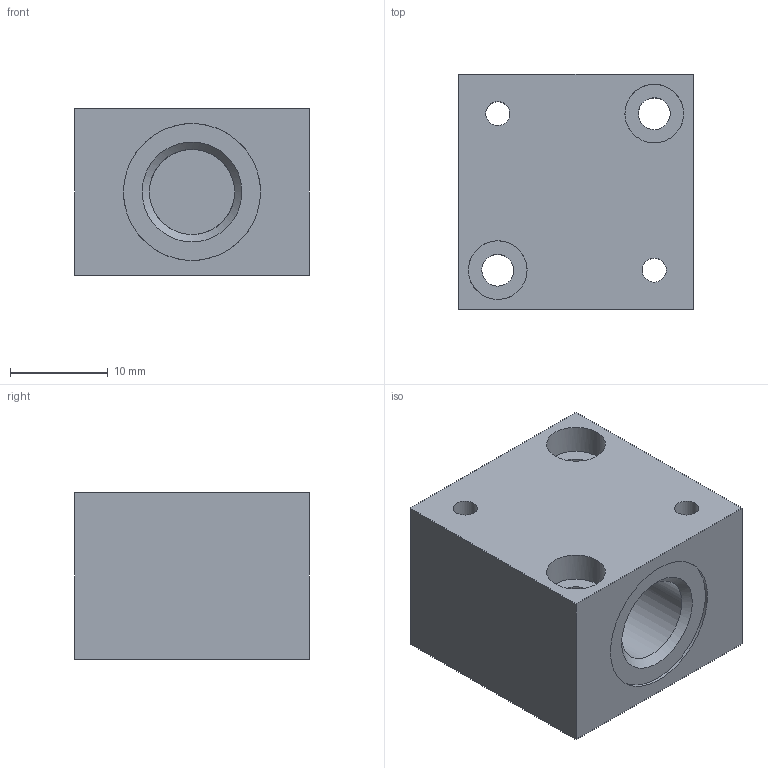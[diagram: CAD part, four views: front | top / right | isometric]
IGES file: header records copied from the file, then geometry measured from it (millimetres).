
Global section: file name: 305_00_18; native system: Autodesk Inventor 2014; preprocessor: unknown; date: 20161003.120542; units: millimetre
Bounding box: 24 x 24 x 17 mm (x, y, z)
Volume: 8085.1 mm3; surface area: 3873.7 mm2
Topology: 1 solids, 1 shells, 24 faces, 60 edges, 44 vertices
Faces by surface type: bspline 24
